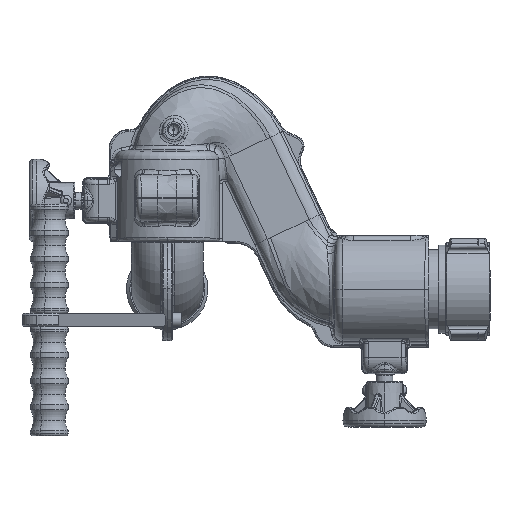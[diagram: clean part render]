
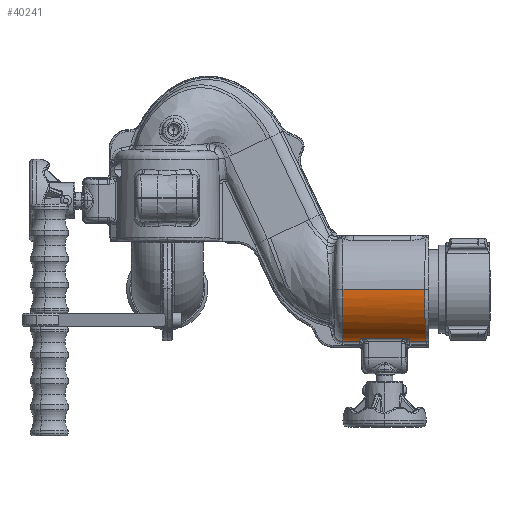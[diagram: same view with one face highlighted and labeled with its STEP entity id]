
A CAD part, left-side view. The second image highlights one B-rep face of the part: STEP entity #40241.
In plain terms, the highlighted cylindrical face has radius 50.8 mm (diameter 101.6 mm), a partial arc.
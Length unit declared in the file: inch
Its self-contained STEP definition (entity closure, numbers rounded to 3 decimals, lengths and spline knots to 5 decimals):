
#1584 = EDGE_CURVE ( 'NONE', #41342, #90195, #10213, .T. ) ;
#2418 = CYLINDRICAL_SURFACE ( 'NONE', #65973, 2. ) ;
#2757 = CARTESIAN_POINT ( 'NONE',  ( -0.52214, -0.64669, -1.99286 ) ) ;
#3040 = VERTEX_POINT ( 'NONE', #97627 ) ;
#4345 =( BOUNDED_CURVE ( )  B_SPLINE_CURVE ( 3, ( #50167, #66153, #90164, #9479 ),
 .UNSPECIFIED., .F., .F. ) 
 B_SPLINE_CURVE_WITH_KNOTS ( ( 4, 4 ),
 ( 1.22263, 1.54138 ),
 .UNSPECIFIED. ) 
 CURVE ( )  GEOMETRIC_REPRESENTATION_ITEM ( )  RATIONAL_B_SPLINE_CURVE ( ( 1., 0.992, 0.992, 1. ) ) 
 REPRESENTATION_ITEM ( '' )  );
#5094 = DIRECTION ( 'NONE',  ( 0., 1., 0. ) ) ;
#5909 = CIRCLE ( 'NONE', #78812, 2. ) ;
#7058 = CARTESIAN_POINT ( 'NONE',  ( -0.25, -1., 0. ) ) ;
#9479 = CARTESIAN_POINT ( 'NONE',  ( -0.30882, -2.57314, -1.99913 ) ) ;
#9941 = VERTEX_POINT ( 'NONE', #26652 ) ;
#10213 =( BOUNDED_CURVE ( )  B_SPLINE_CURVE ( 3, ( #34741, #89653, #33684, #41717 ),
 .UNSPECIFIED., .F., .F. ) 
 B_SPLINE_CURVE_WITH_KNOTS ( ( 4, 4 ),
 ( 4.7418, 6.28319 ),
 .UNSPECIFIED. ) 
 CURVE ( )  GEOMETRIC_REPRESENTATION_ITEM ( )  RATIONAL_B_SPLINE_CURVE ( ( 1., 0.812, 0.812, 1. ) ) 
 REPRESENTATION_ITEM ( '' )  );
#10753 = VECTOR ( 'NONE', #96349, 39.37008 ) ;
#13781 = CARTESIAN_POINT ( 'NONE',  ( -0.25, 0., 0. ) ) ;
#14333 = CARTESIAN_POINT ( 'NONE',  ( -0.30882, -1., -1.99913 ) ) ;
#14649 = VECTOR ( 'NONE', #53364, 39.37008 ) ;
#19376 = VERTEX_POINT ( 'NONE', #40188 ) ;
#21080 = LINE ( 'NONE', #60855, #32187 ) ;
#26652 = CARTESIAN_POINT ( 'NONE',  ( -2.25, 0., 0. ) ) ;
#28595 = CARTESIAN_POINT ( 'NONE',  ( -0.93235, -2.51518, -1.88 ) ) ;
#32187 = VECTOR ( 'NONE', #77890, 39.37008 ) ;
#33684 = CARTESIAN_POINT ( 'NONE',  ( -2.25, -3.13858, -1.14443 ) ) ;
#34741 = CARTESIAN_POINT ( 'NONE',  ( -0.30882, -3.19789, -1.99913 ) ) ;
#39059 = CARTESIAN_POINT ( 'NONE',  ( -0.93235, -0.68482, -1.88 ) ) ;
#39502 = LINE ( 'NONE', #100996, #14649 ) ;
#40188 = CARTESIAN_POINT ( 'NONE',  ( -0.30882, -0.62686, -1.99913 ) ) ;
#40241 = ADVANCED_FACE ( 'NONE', ( #80803 ), #2418, .T. ) ;
#41342 = VERTEX_POINT ( 'NONE', #52729 ) ;
#41717 = CARTESIAN_POINT ( 'NONE',  ( -2.25, -3.13858, 0. ) ) ;
#42328 = ORIENTED_EDGE ( 'NONE', *, *, #76289, .T. ) ;
#43834 = ORIENTED_EDGE ( 'NONE', *, *, #68857, .T. ) ;
#46986 = DIRECTION ( 'NONE',  ( 0., -1., 0. ) ) ;
#49205 = VERTEX_POINT ( 'NONE', #28595 ) ;
#50167 = CARTESIAN_POINT ( 'NONE',  ( -0.93235, -2.51518, -1.88 ) ) ;
#50409 = CARTESIAN_POINT ( 'NONE',  ( -0.30882, -0.62686, -1.99913 ) ) ;
#52729 = CARTESIAN_POINT ( 'NONE',  ( -0.30882, -3.19789, -1.99913 ) ) ;
#53364 = DIRECTION ( 'NONE',  ( 0., -1., 0. ) ) ;
#58090 = VERTEX_POINT ( 'NONE', #82972 ) ;
#58374 = CARTESIAN_POINT ( 'NONE',  ( -0.93235, -0.68482, -1.88 ) ) ;
#58723 = CARTESIAN_POINT ( 'NONE',  ( -0.73175, -0.66618, -1.95281 ) ) ;
#59606 = EDGE_CURVE ( 'NONE', #19376, #72228, #91251, .T. ) ;
#60855 = CARTESIAN_POINT ( 'NONE',  ( -0.30882, -1., -1.99913 ) ) ;
#61099 = EDGE_LOOP ( 'NONE', ( #99236, #75472, #78846, #43834, #94884, #96744, #95665, #42328 ) ) ;
#61300 = DIRECTION ( 'NONE',  ( 0., 1., 0. ) ) ;
#61549 = LINE ( 'NONE', #14333, #98909 ) ;
#64367 = CARTESIAN_POINT ( 'NONE',  ( -2.25, -1., 0. ) ) ;
#65973 = AXIS2_PLACEMENT_3D ( 'NONE', #7058, #61300, #69300 ) ;
#66153 = CARTESIAN_POINT ( 'NONE',  ( -0.73175, -2.53382, -1.95281 ) ) ;
#68857 = EDGE_CURVE ( 'NONE', #3040, #19376, #21080, .T. ) ;
#69300 = DIRECTION ( 'NONE',  ( -1., 0., 0. ) ) ;
#70230 = EDGE_CURVE ( 'NONE', #72228, #49205, #39502, .T. ) ;
#70507 = LINE ( 'NONE', #64367, #10753 ) ;
#72228 = VERTEX_POINT ( 'NONE', #39059 ) ;
#75472 = ORIENTED_EDGE ( 'NONE', *, *, #92379, .T. ) ;
#76289 = EDGE_CURVE ( 'NONE', #58090, #41342, #61549, .T. ) ;
#76341 = DIRECTION ( 'NONE',  ( -1., 0., 0. ) ) ;
#77890 = DIRECTION ( 'NONE',  ( 0., -1., 0. ) ) ;
#78812 = AXIS2_PLACEMENT_3D ( 'NONE', #13781, #5094, #76341 ) ;
#78846 = ORIENTED_EDGE ( 'NONE', *, *, #89609, .F. ) ;
#80803 = FACE_OUTER_BOUND ( 'NONE', #61099, .T. ) ;
#81827 = CARTESIAN_POINT ( 'NONE',  ( -2.25, -3.13858, 0. ) ) ;
#82972 = CARTESIAN_POINT ( 'NONE',  ( -0.30882, -2.57314, -1.99913 ) ) ;
#89609 = EDGE_CURVE ( 'NONE', #3040, #9941, #5909, .T. ) ;
#89653 = CARTESIAN_POINT ( 'NONE',  ( -1.45276, -3.16294, -1.96548 ) ) ;
#90164 = CARTESIAN_POINT ( 'NONE',  ( -0.52214, -2.55331, -1.99286 ) ) ;
#90195 = VERTEX_POINT ( 'NONE', #81827 ) ;
#91251 =( BOUNDED_CURVE ( )  B_SPLINE_CURVE ( 3, ( #50409, #2757, #58723, #58374 ),
 .UNSPECIFIED., .F., .F. ) 
 B_SPLINE_CURVE_WITH_KNOTS ( ( 4, 4 ),
 ( 1.60021, 1.91896 ),
 .UNSPECIFIED. ) 
 CURVE ( )  GEOMETRIC_REPRESENTATION_ITEM ( )  RATIONAL_B_SPLINE_CURVE ( ( 1., 0.992, 0.992, 1. ) ) 
 REPRESENTATION_ITEM ( '' )  );
#92019 = EDGE_CURVE ( 'NONE', #49205, #58090, #4345, .T. ) ;
#92379 = EDGE_CURVE ( 'NONE', #90195, #9941, #70507, .T. ) ;
#94884 = ORIENTED_EDGE ( 'NONE', *, *, #59606, .T. ) ;
#95665 = ORIENTED_EDGE ( 'NONE', *, *, #92019, .T. ) ;
#96349 = DIRECTION ( 'NONE',  ( 0., 1., 0. ) ) ;
#96744 = ORIENTED_EDGE ( 'NONE', *, *, #70230, .T. ) ;
#97627 = CARTESIAN_POINT ( 'NONE',  ( -0.30882, 0., -1.99913 ) ) ;
#98909 = VECTOR ( 'NONE', #46986, 39.37008 ) ;
#99236 = ORIENTED_EDGE ( 'NONE', *, *, #1584, .T. ) ;
#100996 = CARTESIAN_POINT ( 'NONE',  ( -0.93235, -1., -1.88 ) ) ;
